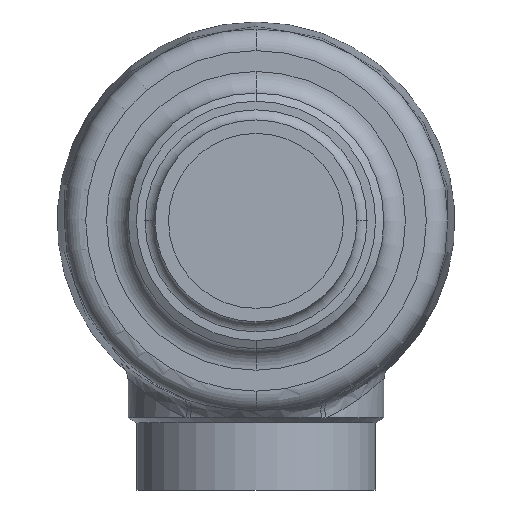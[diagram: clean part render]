
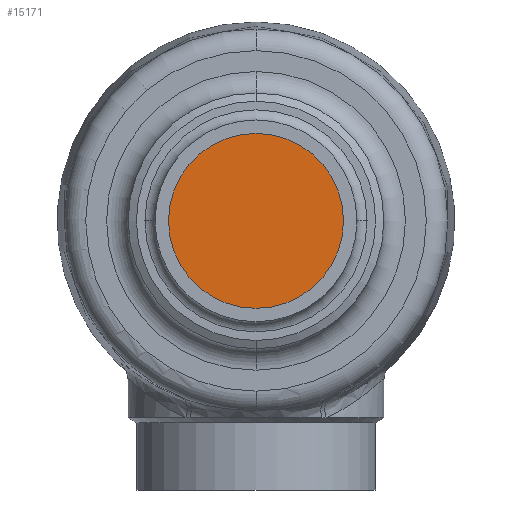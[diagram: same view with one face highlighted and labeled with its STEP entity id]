
A CAD part, front view. The second image highlights one B-rep face of the part: STEP entity #15171.
In plain terms, the highlighted planar face has unit normal (0, -1, 0) as drawn and (0, 0, 1) by its records, which use the part's own axes.
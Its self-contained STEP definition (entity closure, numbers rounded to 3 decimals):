
#204 = CIRCLE ( 'NONE', #205, 32.5 ) ;
#205 = AXIS2_PLACEMENT_3D ( 'NONE', #206, #207, #208 ) ;
#206 = CARTESIAN_POINT ( 'NONE',  ( 0., 0., 99. ) ) ;
#207 = DIRECTION ( 'NONE',  ( 0., 0., 1. ) ) ;
#208 = DIRECTION ( 'NONE',  ( 1., 0., 0. ) ) ;
#273 = CIRCLE ( 'NONE', #274, 32.5 ) ;
#274 = AXIS2_PLACEMENT_3D ( 'NONE', #275, #277, #278 ) ;
#275 = CARTESIAN_POINT ( 'NONE',  ( 0., 0., 99. ) ) ;
#277 = DIRECTION ( 'NONE',  ( 0., 0., 1. ) ) ;
#278 = DIRECTION ( 'NONE',  ( 1., 0., 0. ) ) ;
#330 = EDGE_CURVE ( 'NONE', #11940, #8020, #204, .T. ) ;
#6795 = FACE_OUTER_BOUND ( 'NONE', #14942, .T. ) ;
#6796 = PLANE ( 'NONE',  #6797 ) ;
#6797 = AXIS2_PLACEMENT_3D ( 'NONE', #6798, #6799, #6800 ) ;
#6798 = CARTESIAN_POINT ( 'NONE',  ( 0., 0., 99. ) ) ;
#6799 = DIRECTION ( 'NONE',  ( 0., 0., 1. ) ) ;
#6800 = DIRECTION ( 'NONE',  ( 1., 0., 0. ) ) ;
#8020 = VERTEX_POINT ( 'NONE', #11005 ) ;
#9265 = EDGE_CURVE ( 'NONE', #8020, #11940, #273, .T. ) ;
#10692 = CARTESIAN_POINT ( 'NONE',  ( -32.5, 0., 99. ) ) ;
#11005 = CARTESIAN_POINT ( 'NONE',  ( 32.5, 0., 99. ) ) ;
#11940 = VERTEX_POINT ( 'NONE', #10692 ) ;
#13984 = ORIENTED_EDGE ( 'NONE', *, *, #330, .T. ) ;
#14463 = ORIENTED_EDGE ( 'NONE', *, *, #9265, .T. ) ;
#14942 = EDGE_LOOP ( 'NONE', ( #14463, #13984 ) ) ;
#15171 = ADVANCED_FACE ( 'NONE', ( #6795 ), #6796, .T. ) ;
